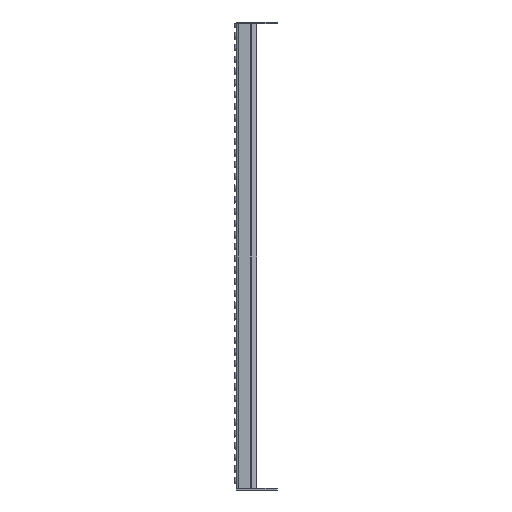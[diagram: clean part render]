
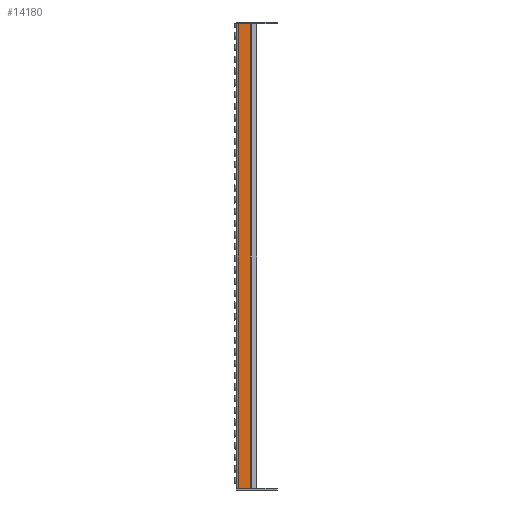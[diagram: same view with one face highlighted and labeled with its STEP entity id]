
A CAD part, left-side view. The second image highlights one B-rep face of the part: STEP entity #14180.
In plain terms, the highlighted planar face has unit normal (-1, 0, 0).
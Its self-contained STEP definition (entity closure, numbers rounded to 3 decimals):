
#2051=FACE_OUTER_BOUND('',#3130,.T.);
#3130=EDGE_LOOP('',(#12303,#12304,#12305,#12306));
#4237=LINE('',#27979,#5573);
#4248=LINE('',#28009,#5584);
#4258=LINE('',#28032,#5594);
#4265=LINE('',#28047,#5601);
#5573=VECTOR('',#19047,10.);
#5584=VECTOR('',#19072,10.);
#5594=VECTOR('',#19094,10.);
#5601=VECTOR('',#19113,10.);
#6992=VERTEX_POINT('',#27976);
#6993=VERTEX_POINT('',#27978);
#7005=VERTEX_POINT('',#28008);
#7012=VERTEX_POINT('',#28031);
#8779=EDGE_CURVE('',#6993,#6992,#4237,.T.);
#8794=EDGE_CURVE('',#6992,#7005,#4248,.T.);
#8806=EDGE_CURVE('',#7012,#6993,#4258,.T.);
#8814=EDGE_CURVE('',#7005,#7012,#4265,.T.);
#12303=ORIENTED_EDGE('',*,*,#8794,.T.);
#12304=ORIENTED_EDGE('',*,*,#8814,.T.);
#12305=ORIENTED_EDGE('',*,*,#8806,.T.);
#12306=ORIENTED_EDGE('',*,*,#8779,.T.);
#13267=PLANE('',#15631);
#14180=ADVANCED_FACE('',(#2051),#13267,.T.);
#15631=AXIS2_PLACEMENT_3D('',#28048,#19114,#19115);
#19047=DIRECTION('',(0.,1.,0.));
#19072=DIRECTION('',(0.,0.,-1.));
#19094=DIRECTION('',(0.,0.,1.));
#19113=DIRECTION('',(0.,-1.,0.));
#19114=DIRECTION('center_axis',(-1.,0.,0.));
#19115=DIRECTION('ref_axis',(0.,0.,1.));
#27976=CARTESIAN_POINT('',(0.,-3.25,794.));
#27978=CARTESIAN_POINT('',(0.,-24.427,794.));
#27979=CARTESIAN_POINT('',(0.,0.,794.));
#28008=CARTESIAN_POINT('',(0.,-3.25,0.));
#28009=CARTESIAN_POINT('',(0.,-3.25,0.));
#28031=CARTESIAN_POINT('',(0.,-24.427,0.));
#28032=CARTESIAN_POINT('',(0.,-24.427,198.5));
#28047=CARTESIAN_POINT('',(0.,0.,0.));
#28048=CARTESIAN_POINT('Origin',(0.,-25.,0.));
